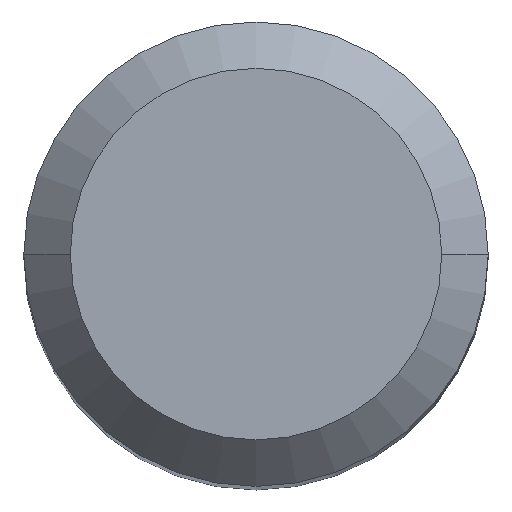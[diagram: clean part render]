
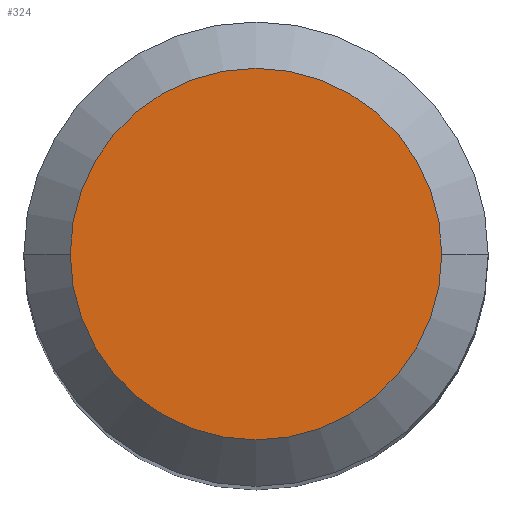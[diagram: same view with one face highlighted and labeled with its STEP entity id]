
A CAD part, top view. The second image highlights one B-rep face of the part: STEP entity #324.
In plain terms, the highlighted planar face has unit normal (0, 0, 1).
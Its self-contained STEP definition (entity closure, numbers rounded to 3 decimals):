
#4 = DIRECTION ( 'NONE',  ( -1., 0., 0. ) ) ;
#38 = DIRECTION ( 'NONE',  ( 0., 0., -1. ) ) ;
#70 = AXIS2_PLACEMENT_3D ( 'NONE', #384, #38, #4 ) ;
#74 = EDGE_CURVE ( 'NONE', #375, #379, #494, .T. ) ;
#79 = CARTESIAN_POINT ( 'NONE',  ( 0., 0., 0. ) ) ;
#80 = DIRECTION ( 'NONE',  ( 0., 0., 1. ) ) ;
#116 = PLANE ( 'NONE',  #263 ) ;
#122 = CARTESIAN_POINT ( 'NONE',  ( 0., 3.2, 0. ) ) ;
#161 = EDGE_CURVE ( 'NONE', #379, #375, #342, .T. ) ;
#190 = DIRECTION ( 'NONE',  ( -1., 0., 0. ) ) ;
#263 = AXIS2_PLACEMENT_3D ( 'NONE', #122, #80, #458 ) ;
#299 = ORIENTED_EDGE ( 'NONE', *, *, #74, .F. ) ;
#300 = ORIENTED_EDGE ( 'NONE', *, *, #161, .F. ) ;
#320 = DIRECTION ( 'NONE',  ( 0., 0., -1. ) ) ;
#324 = ADVANCED_FACE ( 'NONE', ( #426 ), #116, .T. ) ;
#338 = EDGE_LOOP ( 'NONE', ( #299, #300 ) ) ;
#342 = CIRCLE ( 'NONE', #70, 3.2 ) ;
#375 = VERTEX_POINT ( 'NONE', #431 ) ;
#379 = VERTEX_POINT ( 'NONE', #395 ) ;
#384 = CARTESIAN_POINT ( 'NONE',  ( 0., 0., 0. ) ) ;
#395 = CARTESIAN_POINT ( 'NONE',  ( 3.2, 0., 0. ) ) ;
#426 = FACE_OUTER_BOUND ( 'NONE', #338, .T. ) ;
#431 = CARTESIAN_POINT ( 'NONE',  ( -3.2, 0., 0. ) ) ;
#458 = DIRECTION ( 'NONE',  ( 1., 0., 0. ) ) ;
#461 = AXIS2_PLACEMENT_3D ( 'NONE', #79, #320, #190 ) ;
#494 = CIRCLE ( 'NONE', #461, 3.2 ) ;
